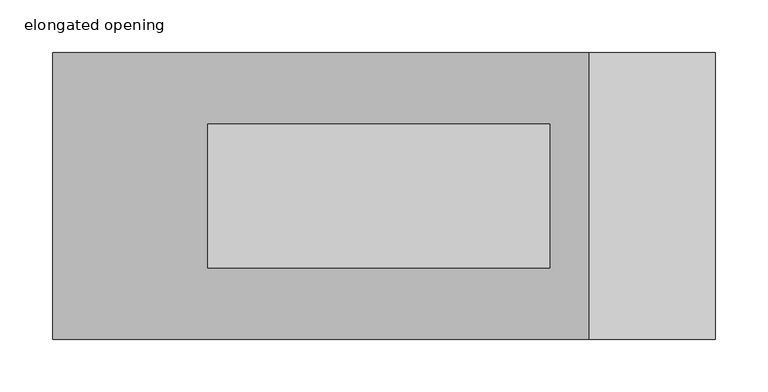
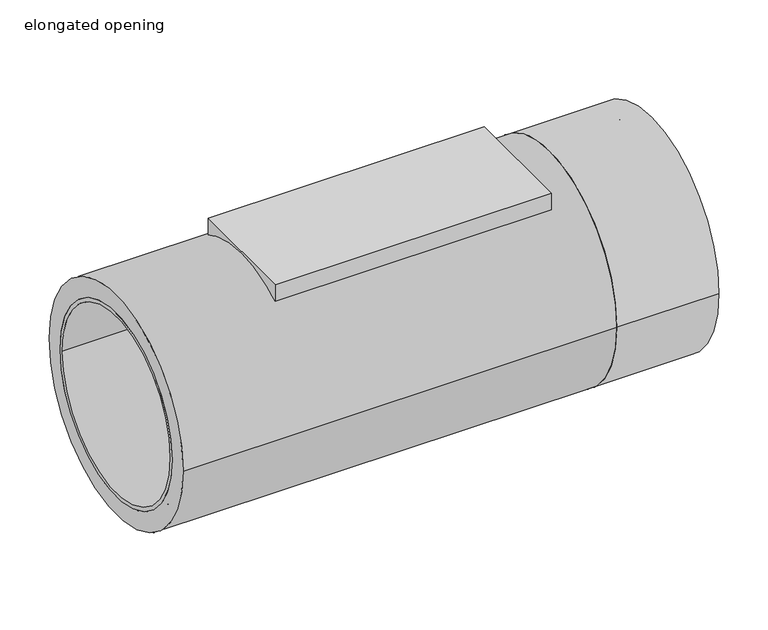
"""IFC4 building model written with IfcOpenShell, lengths in millimetres: pipe fitting geometry, PIF_ST_UN_GM-X compound pipe cleaning-pipe (multiport)_ACO : elongated opening."""

from ifc_helpers import new_model, si_unit, point, frame, origin, origin_2d, place, context, project, spatial, polyline, circle_curve, trimmed, segment, composite_curve, outline, extrude, source, transform, mapped, element, save
from ifc_brep_helpers import plane_surface, cylinder_surface, revolved_surface, advanced_brep


def elongated_opening_5daf6a83(model_context):
    return source(origin(), model_context, "Body", "SolidModel", [
        extrude(outline(composite_curve([segment(trimmed(circle_curve(origin_2d(), 136.5), [point((-136.5, 0.0))], [point((136.5, 0.0))], False, "CARTESIAN"), True, "CONTINUOUS"), segment(trimmed(circle_curve(origin_2d(), 136.5), [point((136.5, 0.0))], [point((-136.5, 0.0))], False, "CARTESIAN"), True, "CONTINUOUS")], self_intersect=False), holes=[composite_curve([segment(trimmed(circle_curve(origin_2d(), 114.0), [point((-114.0, 0.0))], [point((114.0, 0.0))], True, "CARTESIAN"), True, "CONTINUOUS"), segment(trimmed(circle_curve(origin_2d(), 114.0), [point((114.0, 0.0))], [point((-114.0, 0.0))], True, "CARTESIAN"), True, "CONTINUOUS")], self_intersect=False)]), frame((390.0, 0.0, 0.0), z_axis=(1.0, 0.0, 0.0), x_axis=(0.0, 1.0, 0.0)), (0.0, 0.0, 1.0), 120.0),
        advanced_brep(
        [(510.0, -114.0, 0.0), (510.0, 114.0, 0.0), (510.0, 109.5, 0.0), (510.0, -109.5, 0.0), (390.0, -114.0, 0.0), (390.0, 114.0, 0.0), (390.0, -109.5, 0.0), (390.0, 109.5, 0.0), (466.0, -114.0, 0.0), (466.0, 114.0, 0.0), (405.6, 114.0, 0.0), (405.6, -114.0, 0.0), (466.0, -123.7, 0.0), (466.0, 123.7, 0.0), (405.6, -123.7, 0.0), (405.6, 123.7, 0.0)],
        [
            (0, 1, circle_curve(frame((510.0, 0.0, 0.0), z_axis=(1.0, 0.0, 0.0), x_axis=(0.0, 1.0, 0.0)), 114.0)),
            (1, 0, circle_curve(frame((510.0, 0.0, 0.0), z_axis=(1.0, 0.0, 0.0), x_axis=(0.0, 1.0, 0.0)), 114.0)),
            (2, 3, circle_curve(frame((510.0, 0.0, 0.0), z_axis=(-1.0, 0.0, 0.0), x_axis=(0.0, 1.0, 0.0)), 109.5)),
            (3, 2, circle_curve(frame((510.0, 0.0, 0.0), z_axis=(-1.0, 0.0, 0.0), x_axis=(0.0, 1.0, 0.0)), 109.5)),
            (4, 5, circle_curve(frame((390.0, 0.0, 0.0), z_axis=(-1.0, 0.0, 0.0), x_axis=(0.0, 1.0, 0.0)), 114.0)),
            (5, 4, circle_curve(frame((390.0, 0.0, 0.0), z_axis=(-1.0, 0.0, 0.0), x_axis=(0.0, 1.0, 0.0)), 114.0)),
            (6, 7, circle_curve(frame((390.0, 0.0, 0.0), z_axis=(1.0, 0.0, 0.0), x_axis=(0.0, 1.0, 0.0)), 109.5)),
            (7, 6, circle_curve(frame((390.0, 0.0, 0.0), z_axis=(1.0, 0.0, 0.0), x_axis=(0.0, 1.0, 0.0)), 109.5)),
            (0, 8),
            (8, 9, circle_curve(frame((466.0, 0.0, 0.0), z_axis=(1.0, 0.0, 0.0), x_axis=(0.0, 1.0, 0.0)), 114.0)),
            (9, 1),
            (5, 10),
            (10, 11, circle_curve(frame((405.6, 0.0, 0.0), z_axis=(-1.0, 0.0, 0.0), x_axis=(0.0, 1.0, 0.0)), 114.0)),
            (11, 4),
            (9, 8, circle_curve(frame((466.0, 0.0, 0.0), z_axis=(1.0, 0.0, 0.0), x_axis=(0.0, 1.0, 0.0)), 114.0)),
            (11, 10, circle_curve(frame((405.6, 0.0, 0.0), z_axis=(-1.0, 0.0, 0.0), x_axis=(0.0, 1.0, 0.0)), 114.0)),
            (2, 7),
            (6, 3),
            (12, 13, circle_curve(frame((466.0, 0.0, 0.0), z_axis=(1.0, 0.0, 0.0), x_axis=(0.0, 1.0, 0.0)), 123.7)),
            (13, 12, circle_curve(frame((466.0, 0.0, 0.0), z_axis=(1.0, 0.0, 0.0), x_axis=(0.0, 1.0, 0.0)), 123.7)),
            (14, 15, circle_curve(frame((405.6, 0.0, 0.0), z_axis=(-1.0, 0.0, 0.0), x_axis=(0.0, 1.0, 0.0)), 123.7)),
            (15, 14, circle_curve(frame((405.6, 0.0, 0.0), z_axis=(-1.0, 0.0, 0.0), x_axis=(0.0, 1.0, 0.0)), 123.7)),
            (12, 14),
            (15, 13),
        ],
        [
            plane_surface(frame((510.0, 114.0, 0.0), z_axis=(1.0, 0.0, 0.0), x_axis=(0.0, 0.0, 1.0))),
            plane_surface(frame((390.0, 114.0, 0.0), z_axis=(-1.0, 0.0, 0.0), x_axis=(0.0, 0.0, -1.0))),
            cylinder_surface(frame((390.0, 0.0, 0.0), z_axis=(1.0, 0.0, 0.0), x_axis=(0.0, 1.0, 0.0)), 114.0),
            revolved_surface(polyline([(510.0, 109.5, 0.0), (390.0, 109.5, 0.0)]), (390.0, 0.0, 0.0), (1.0, 0.0, 0.0)),
            plane_surface(frame((466.0, 123.7, 0.0), z_axis=(1.0, 0.0, 0.0), x_axis=(0.0, 0.0, 1.0))),
            plane_surface(frame((405.6, 123.7, 0.0), z_axis=(-1.0, 0.0, 0.0), x_axis=(0.0, 0.0, -1.0))),
            cylinder_surface(frame((405.6, 0.0, 0.0), z_axis=(1.0, 0.0, 0.0), x_axis=(0.0, 1.0, 0.0)), 123.7),
        ],
        [
            (0, [[1, 2], [3, 4]]),
            (1, [[5, 6], [7, 8]]),
            (2, [[-1, 9, 10, 11]]),
            (2, [[-6, 12, 13, 14]]),
            (2, [[-2, -11, 15, -9]]),
            (2, [[-5, -14, 16, -12]]),
            (3, [[17, -7, 18, -3]]),
            (3, [[-17, -4, -18, -8]]),
            (4, [[19, 20], [-10, -15]]),
            (5, [[21, 22], [-13, -16]]),
            (6, [[-19, 23, -22, 24]]),
            (6, [[-20, -24, -21, -23]]),
        ],
    ),
        advanced_brep(
        [(-104.4, -123.7, 0.0), (-104.4, 123.7, 0.0), (-44.0, 123.7, 0.0), (-44.0, -123.7, 0.0), (-120.0, 114.0, 0.0), (-120.0, -114.0, 0.0), (-120.0, -109.5, 0.0), (-120.0, 109.5, 0.0), (0.0, 114.0, 0.0), (0.0, -114.0, 0.0), (0.0, 109.5, 0.0), (0.0, -109.5, 0.0), (-104.4, 114.0, 0.0), (-104.4, -114.0, 0.0), (-44.0, -114.0, 0.0), (-44.0, 114.0, 0.0)],
        [
            (0, 1, circle_curve(frame((-104.4, 0.0, 0.0), z_axis=(1.0, 0.0, 0.0), x_axis=(0.0, -1.0, 0.0)), 123.7)),
            (1, 2),
            (2, 3, circle_curve(frame((-44.0, 0.0, 0.0), z_axis=(-1.0, 0.0, 0.0), x_axis=(0.0, -1.0, 0.0)), 123.7)),
            (3, 0),
            (1, 0, circle_curve(frame((-104.4, 0.0, 0.0), z_axis=(1.0, 0.0, 0.0), x_axis=(0.0, -1.0, 0.0)), 123.7)),
            (3, 2, circle_curve(frame((-44.0, 0.0, 0.0), z_axis=(-1.0, 0.0, 0.0), x_axis=(0.0, -1.0, 0.0)), 123.7)),
            (4, 5, circle_curve(frame((-120.0, 0.0, 0.0), z_axis=(-1.0, 0.0, 0.0), x_axis=(0.0, -1.0, 0.0)), 114.0)),
            (5, 4, circle_curve(frame((-120.0, 0.0, 0.0), z_axis=(-1.0, 0.0, 0.0), x_axis=(0.0, -1.0, 0.0)), 114.0)),
            (6, 7, circle_curve(frame((-120.0, 0.0, 0.0), z_axis=(1.0, 0.0, 0.0), x_axis=(0.0, -1.0, 0.0)), 109.5)),
            (7, 6, circle_curve(frame((-120.0, 0.0, 0.0), z_axis=(1.0, 0.0, 0.0), x_axis=(0.0, -1.0, 0.0)), 109.5)),
            (8, 9, circle_curve(frame((0.0, 0.0, 0.0), z_axis=(1.0, 0.0, 0.0), x_axis=(0.0, -1.0, 0.0)), 114.0)),
            (9, 8, circle_curve(frame((0.0, 0.0, 0.0), z_axis=(1.0, 0.0, 0.0), x_axis=(0.0, -1.0, 0.0)), 114.0)),
            (10, 11, circle_curve(frame((0.0, 0.0, 0.0), z_axis=(-1.0, 0.0, 0.0), x_axis=(0.0, -1.0, 0.0)), 109.5)),
            (11, 10, circle_curve(frame((0.0, 0.0, 0.0), z_axis=(-1.0, 0.0, 0.0), x_axis=(0.0, -1.0, 0.0)), 109.5)),
            (4, 12),
            (12, 13, circle_curve(frame((-104.4, 0.0, 0.0), z_axis=(-1.0, 0.0, 0.0), x_axis=(0.0, -1.0, 0.0)), 114.0)),
            (13, 5),
            (9, 14),
            (14, 15, circle_curve(frame((-44.0, 0.0, 0.0), z_axis=(1.0, 0.0, 0.0), x_axis=(0.0, -1.0, 0.0)), 114.0)),
            (15, 8),
            (13, 12, circle_curve(frame((-104.4, 0.0, 0.0), z_axis=(-1.0, 0.0, 0.0), x_axis=(0.0, -1.0, 0.0)), 114.0)),
            (15, 14, circle_curve(frame((-44.0, 0.0, 0.0), z_axis=(1.0, 0.0, 0.0), x_axis=(0.0, -1.0, 0.0)), 114.0)),
            (6, 11),
            (10, 7),
        ],
        [
            cylinder_surface(frame((-44.0, 0.0, 0.0), z_axis=(-1.0, 0.0, 0.0), x_axis=(0.0, -1.0, 0.0)), 123.7),
            plane_surface(frame((-120.0, -114.0, 0.0), z_axis=(-1.0, 0.0, 0.0), x_axis=(0.0, 0.0, 1.0))),
            plane_surface(frame((0.0, -114.0, 0.0), z_axis=(1.0, 0.0, 0.0), x_axis=(0.0, 0.0, -1.0))),
            cylinder_surface(frame((0.0, 0.0, 0.0), z_axis=(-1.0, 0.0, 0.0), x_axis=(0.0, -1.0, 0.0)), 114.0),
            revolved_surface(polyline([(-120.0, -109.5, 0.0), (0.0, -109.5, 0.0)]), (0.0, 0.0, 0.0), (-1.0, 0.0, 0.0)),
            plane_surface(frame((-104.4, -123.7, 0.0), z_axis=(-1.0, 0.0, 0.0), x_axis=(0.0, 0.0, 1.0))),
            plane_surface(frame((-44.0, -123.7, 0.0), z_axis=(1.0, 0.0, 0.0), x_axis=(0.0, 0.0, -1.0))),
        ],
        [
            (0, [[1, 2, 3, 4]]),
            (0, [[5, -4, 6, -2]]),
            (1, [[7, 8], [9, 10]]),
            (2, [[11, 12], [13, 14]]),
            (3, [[-7, 15, 16, 17]]),
            (3, [[-12, 18, 19, 20]]),
            (3, [[-8, -17, 21, -15]]),
            (3, [[-11, -20, 22, -18]]),
            (4, [[23, -13, 24, -9]]),
            (4, [[-23, -10, -24, -14]]),
            (5, [[-1, -5], [-16, -21]]),
            (6, [[-6, -3], [-19, -22]]),
        ],
    ),
        extrude(outline(composite_curve([segment(polyline([(-68.25, 138.5), (68.25, 138.5), (68.25, 118.2124676)]), True, "CONTINUOUS"), segment(trimmed(circle_curve(origin_2d(), 136.5), [point((68.25, 118.2124676))], [point((-68.25, 118.2124676))], True, "CARTESIAN"), True, "CONTINUOUS"), segment(polyline([(-68.25, 118.2124676), (-68.25, 138.5)]), True, "CONTINUOUS")], self_intersect=False)), frame((27.5, 0.0, 0.0), z_axis=(1.0, 0.0, 0.0), x_axis=(0.0, 1.0, 0.0)), (0.0, 0.0, 1.0), 325.0),
        advanced_brep(
        [(-120.0, -136.5, 0.0), (-120.0, 136.5, 0.0), (-120.0, 114.0, 0.0), (-120.0, -114.0, 0.0), (390.0, -136.5, 0.0), (390.0, 136.5, 0.0), (0.0, -114.0, 0.0), (0.0, 114.0, 0.0)],
        [
            (0, 1, circle_curve(frame((-120.0, 0.0, 0.0), z_axis=(-1.0, 0.0, 0.0), x_axis=(0.0, 1.0, 0.0)), 136.5)),
            (1, 0, circle_curve(frame((-120.0, 0.0, 0.0), z_axis=(-1.0, 0.0, 0.0), x_axis=(0.0, 1.0, 0.0)), 136.5)),
            (2, 3, circle_curve(frame((-120.0, 0.0, 0.0), z_axis=(1.0, 0.0, 0.0), x_axis=(0.0, 1.0, 0.0)), 114.0)),
            (3, 2, circle_curve(frame((-120.0, 0.0, 0.0), z_axis=(1.0, 0.0, 0.0), x_axis=(0.0, 1.0, 0.0)), 114.0)),
            (4, 5, circle_curve(frame((390.0, 0.0, 0.0), z_axis=(1.0, 0.0, 0.0), x_axis=(0.0, 1.0, 0.0)), 136.5)),
            (5, 4, circle_curve(frame((390.0, 0.0, 0.0), z_axis=(1.0, 0.0, 0.0), x_axis=(0.0, 1.0, 0.0)), 136.5)),
            (0, 4),
            (5, 1),
            (6, 7, circle_curve(frame((0.0, 0.0, 0.0), z_axis=(-1.0, 0.0, 0.0), x_axis=(0.0, 1.0, 0.0)), 114.0)),
            (7, 6, circle_curve(frame((0.0, 0.0, 0.0), z_axis=(-1.0, 0.0, 0.0), x_axis=(0.0, 1.0, 0.0)), 114.0)),
            (6, 3),
            (2, 7),
        ],
        [
            plane_surface(frame((-120.0, 136.5, 0.0), z_axis=(-1.0, 0.0, 0.0), x_axis=(0.0, 0.0, -1.0))),
            plane_surface(frame((390.0, 136.5, 0.0), z_axis=(1.0, 0.0, 0.0), x_axis=(0.0, 0.0, 1.0))),
            cylinder_surface(frame((390.0, 0.0, 0.0), z_axis=(-1.0, 0.0, 0.0), x_axis=(0.0, 1.0, 0.0)), 136.5),
            plane_surface(frame((0.0, 114.0, 0.0), z_axis=(-1.0, 0.0, 0.0), x_axis=(0.0, 0.0, 1.0))),
            revolved_surface(polyline([(-120.0, 114.0, 0.0), (0.0, 114.0, 0.0)]), (0.0, 0.0, 0.0), (-1.0, 0.0, 0.0)),
        ],
        [
            (0, [[1, 2], [3, 4]]),
            (1, [[5, 6]]),
            (2, [[-1, 7, -6, 8]]),
            (2, [[-2, -8, -5, -7]]),
            (3, [[9, 10]]),
            (4, [[-9, 11, -3, 12]]),
            (4, [[-10, -12, -4, -11]]),
        ],
    ),
        extrude(outline(composite_curve([segment(trimmed(circle_curve(origin_2d(), 109.5), [point((109.5, 0.0))], [point((-109.5, 0.0))], False, "CARTESIAN"), True, "CONTINUOUS"), segment(trimmed(circle_curve(origin_2d(), 109.5), [point((-109.5, 0.0))], [point((109.5, 0.0))], False, "CARTESIAN"), True, "CONTINUOUS")], self_intersect=False)), frame((390.0, 0.0, 0.0), z_axis=(1.0, 0.0, 0.0), x_axis=(0.0, 1.0, 0.0)), (0.0, 0.0, 1.0), 120.0),
    ])


if __name__ == "__main__":
    model = new_model("IFC4")
    model_context = context("Model", 3, world=origin())
    ifc_project = project(units=[si_unit("LENGTHUNIT", "METRE", prefix="MILLI")], contexts=[model_context])
    site = spatial("IfcSite", under=ifc_project)
    building = spatial("IfcBuilding", under=site)
    placement = place(None, origin())
    elongated_opening_shape = elongated_opening_5daf6a83(model_context)
    element("IfcPipeFitting", 1, ObjectType="PIF_ST_UN_GM-X compound pipe cleaning-pipe (multiport)_ACO : elongated opening", at=placement, inside=building, context=model_context, shape_type="MappedRepresentation", body=[
        mapped(elongated_opening_shape, transform((0.0, 0.0, 0.0), x_axis=(1.0, 0.0, 0.0), y_axis=(0.0, 1.0, 0.0), z_axis=(0.0, 0.0, 1.0))),
    ])
    save(model, "model.ifc")
